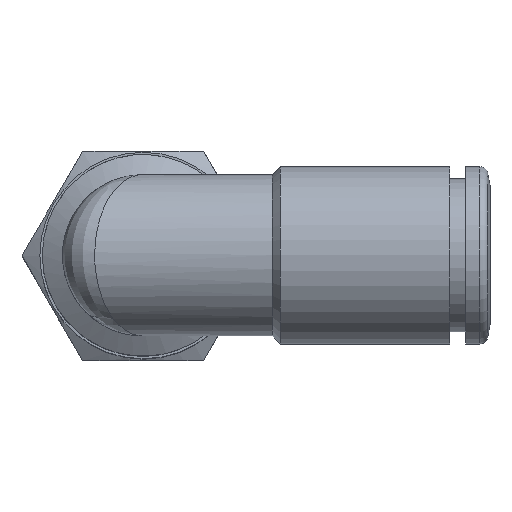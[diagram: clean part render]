
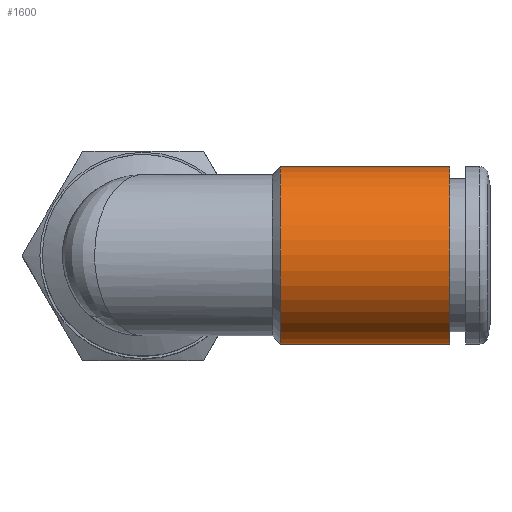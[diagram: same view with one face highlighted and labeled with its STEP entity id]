
A CAD part, top view. The second image highlights one B-rep face of the part: STEP entity #1600.
In plain terms, the highlighted cylindrical face has radius 5.5 mm (diameter 11 mm), a full revolution.
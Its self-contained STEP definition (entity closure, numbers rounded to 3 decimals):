
#1600=ADVANCED_FACE('', (#1610,#1620), #1630, .T.);
#5210=AXIS2_PLACEMENT_3D('Ax2Pl3d', #5220, #5230, #5240);
#6130=AXIS2_PLACEMENT_3D('Ax2Pl3d', #6140, #6150, #6160);
#6170=AXIS2_PLACEMENT_3D('Ax2Pl3d', #6180, #6190, #6200);
#5220=CARTESIAN_POINT('HicPkt', (32.754,11.921,
25.632));
#22190=CARTESIAN_POINT('', (32.754,11.921,31.132));
#6140=CARTESIAN_POINT('HicPkt', (32.754,11.921,
25.632));
#6180=CARTESIAN_POINT('HicPkt', (22.254,11.921,
25.632));
#22330=CARTESIAN_POINT('', (22.254,11.921,31.132));
#23090=CIRCLE('Circle', #5210, 5.5);
#23190=CIRCLE('Circle', #6170, 5.5);
#1630=CYLINDRICAL_SURFACE('Zyl', #6130, 5.5);
#5230=DIRECTION('Axis', (1.,0.,0.));
#5240=DIRECTION('RefDirection', (0.,-0.,-1.));
#6150=DIRECTION('Axis', (-1.,0.,0.))
;
#6160=DIRECTION('RefDirection', (0.,
0.,-1.));
#6190=DIRECTION('Axis', (1.,0.,0.));
#6200=DIRECTION('RefDirection', (0.,-0.,-1.));
#27110=EDGE_CURVE('', #27120, #27120, #23090, .T.);
#27490=EDGE_CURVE('', #27500, #27500, #23190, .T.);
#30120=EDGE_LOOP('Edge_loop', (#30130));
#30140=EDGE_LOOP('Edge_loop', (#30150));
#1620=FACE_BOUND('', #30140, .T.);
#1610=FACE_OUTER_BOUND('Face_outer_bound', #30120, .T.);
#30130=ORIENTED_EDGE('', *, *, #27490, .T.);
#30150=ORIENTED_EDGE('', *, *, #27110, .F.);
#27120=VERTEX_POINT('', #22190);
#27500=VERTEX_POINT('', #22330);
